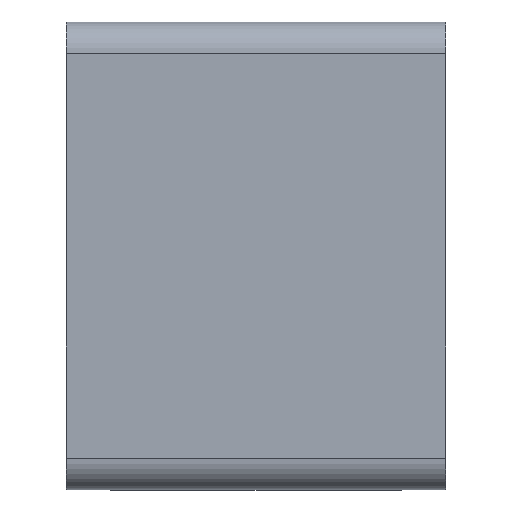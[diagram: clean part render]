
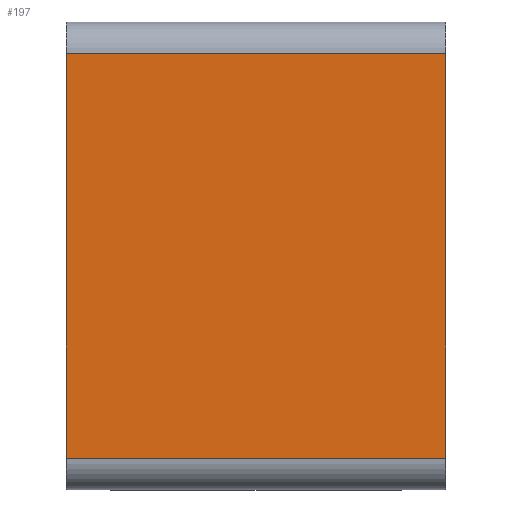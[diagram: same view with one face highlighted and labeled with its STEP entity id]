
A CAD part, top view. The second image highlights one B-rep face of the part: STEP entity #197.
In plain terms, the highlighted planar face has unit normal (0, 0, 1).
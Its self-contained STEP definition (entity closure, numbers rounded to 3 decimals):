
#165 = VERTEX_POINT( '', #459 );
#191 = VERTEX_POINT( '', #494 );
#197 = ADVANCED_FACE( '', ( #501 ), #502, .T. );
#263 = EDGE_CURVE( '', #439, #357, #572, .T. );
#327 = EDGE_CURVE( '', #191, #165, #646, .T. );
#347 = EDGE_CURVE( '', #191, #439, #668, .T. );
#357 = VERTEX_POINT( '', #679 );
#403 = EDGE_CURVE( '', #165, #357, #727, .T. );
#439 = VERTEX_POINT( '', #763 );
#459 = CARTESIAN_POINT( '', ( 25., -34.5, 10.5 ) );
#494 = CARTESIAN_POINT( '', ( 25., -2.5, 10.5 ) );
#501 = FACE_OUTER_BOUND( '', #820, .T. );
#502 = PLANE( '', #821 );
#572 = LINE( '', #920, #921 );
#646 = LINE( '', #1019, #1020 );
#668 = LINE( '', #1050, #1051 );
#679 = CARTESIAN_POINT( '', ( -5., -34.5, 10.5 ) );
#727 = LINE( '', #1131, #1132 );
#763 = CARTESIAN_POINT( '', ( -5., -2.5, 10.5 ) );
#820 = EDGE_LOOP( '', ( #1270, #1271, #1272, #1273 ) );
#821 = AXIS2_PLACEMENT_3D( '', #1274, #1275, #1276 );
#920 = CARTESIAN_POINT( '', ( -5., -2.5, 10.5 ) );
#921 = VECTOR( '', #1338, 1. );
#1019 = CARTESIAN_POINT( '', ( 25., -2.5, 10.5 ) );
#1020 = VECTOR( '', #1443, 1. );
#1050 = CARTESIAN_POINT( '', ( 25., -2.5, 10.5 ) );
#1051 = VECTOR( '', #1473, 1. );
#1131 = CARTESIAN_POINT( '', ( 25., -34.5, 10.5 ) );
#1132 = VECTOR( '', #1523, 1. );
#1270 = ORIENTED_EDGE( '', *, *, #263, .T. );
#1271 = ORIENTED_EDGE( '', *, *, #403, .F. );
#1272 = ORIENTED_EDGE( '', *, *, #327, .F. );
#1273 = ORIENTED_EDGE( '', *, *, #347, .T. );
#1274 = CARTESIAN_POINT( '', ( 25., -2.5, 10.5 ) );
#1275 = DIRECTION( '', ( 0., 0., 1. ) );
#1276 = DIRECTION( '', ( 0., 1., 0. ) );
#1338 = DIRECTION( '', ( 0., -1., 0. ) );
#1443 = DIRECTION( '', ( 0., -1., 0. ) );
#1473 = DIRECTION( '', ( -1., 0., 0. ) );
#1523 = DIRECTION( '', ( -1., 0., 0. ) );
